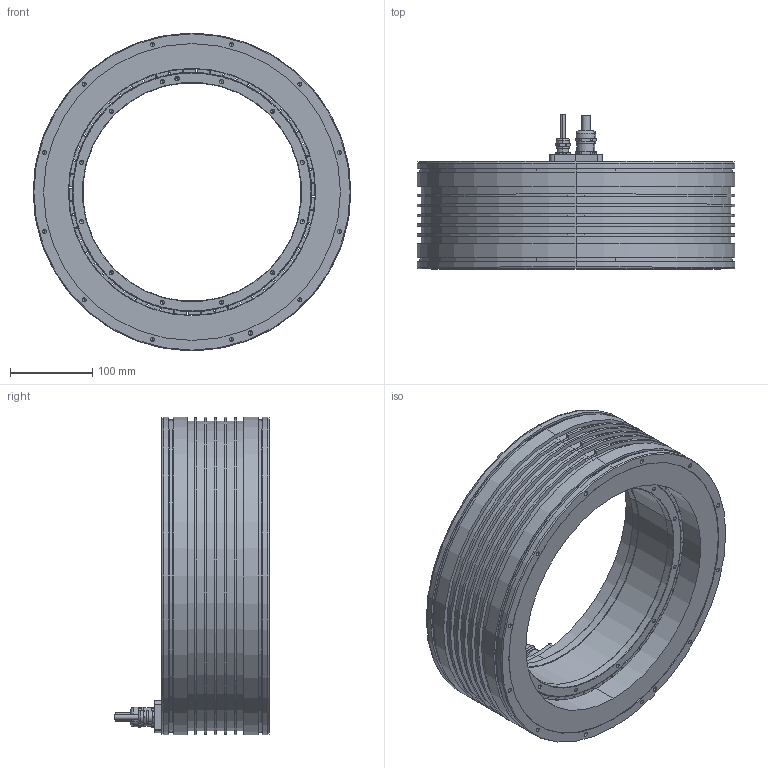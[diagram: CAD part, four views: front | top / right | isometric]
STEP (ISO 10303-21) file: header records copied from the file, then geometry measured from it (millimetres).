
FILE_DESCRIPTION (( 'STEP AP214' ), '1' );
FILE_NAME ('TORQUE KIT QMT LA 385-130-I-AX.STEP', '2025-09-11T06:46:38', ( '' ), ( '' ), 'SwSTEP 2.0', 'SolidWorks 2023', '' );
FILE_SCHEMA (( 'AUTOMOTIVE_DESIGN' ));
Length unit declared in the file: millimetre
Products named in the file (21): Cable; Housing; Magnet; Resin; Rotor; Rotor Glued; Screw; Cable Connection plate 385-485; Stator; Cable Clamp; Cable Gland; TORQUE KIT QMT LA 385-130-I-AX; Cooling Ring; Rotor Ring; Housing-BO; Cable Connection
Assembly tree (76 placements, depth 6):
  TORQUE KIT QMT LA 385-130-I-AX
    Stator
      Stator
        Housing
          Housing-BO
            Cooling Ring
        Cable Connection
          Cable Connection plate 385-485
          Cable
          Cable
        Resin
      Cable Clamp
        Cable Clamp
        Cable Gland
        Cable Gland
      Screw  x3
    Rotor
      Rotor Glued
        Rotor Ring
        Magnet  x28
        Magnet  x28
Bounding box: 385 x 187.1 x 385 mm (x, y, z)
Volume: 6525215.5 mm3; surface area: 1082739.8 mm2
Topology: 68 solids, 68 shells, 2575 faces, 5899 edges, 3228 vertices
Faces by surface type: cylinder 1105, sphere 560, plane 444, torus 252, cone 214
Entity records: 32088 total; most frequent: CARTESIAN_POINT 4673, DIRECTION 4653, ORIENTED_EDGE 3858, EDGE_CURVE 1929, AXIS2_PLACEMENT_3D 1918, VERTEX_POINT 1210, EDGE_LOOP 987, CIRCLE 984
